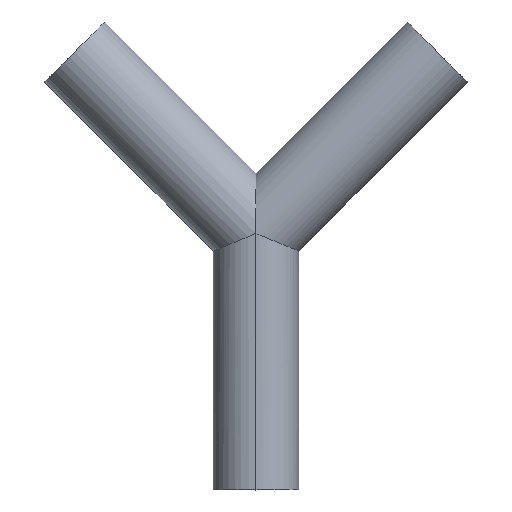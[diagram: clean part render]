
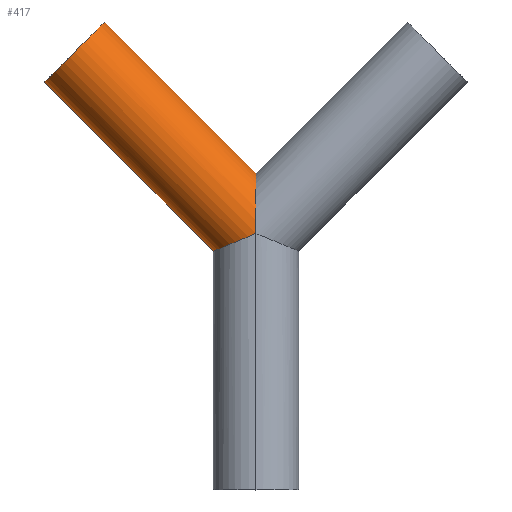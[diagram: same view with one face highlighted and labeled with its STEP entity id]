
A CAD part, top view. The second image highlights one B-rep face of the part: STEP entity #417.
In plain terms, the highlighted cylindrical face has radius 12.7 mm (diameter 25.4 mm), a partial arc.
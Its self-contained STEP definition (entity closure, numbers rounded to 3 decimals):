
#9 = EDGE_LOOP ( 'NONE', ( #325, #363, #56, #157, #224 ) ) ;
#27 = CARTESIAN_POINT ( 'NONE',  ( 16.42, -34.38, 0. ) ) ;
#30 = CARTESIAN_POINT ( 'NONE',  ( 0., 0., 12.7 ) ) ;
#40 = DIRECTION ( 'NONE',  ( -0.707, -0.707, 0. ) ) ;
#41 = CARTESIAN_POINT ( 'NONE',  ( -12.7, -5.261, 7.439 ) ) ;
#56 = ORIENTED_EDGE ( 'NONE', *, *, #198, .T. ) ;
#58 = DIRECTION ( 'NONE',  ( -0.707, 0.707, 0. ) ) ;
#68 = EDGE_CURVE ( 'NONE', #356, #333, #213, .T. ) ;
#83 = CIRCLE ( 'NONE', #441, 12.7 ) ;
#111 = CARTESIAN_POINT ( 'NONE',  ( 0., 0., 12.7 ) ) ;
#119 = CARTESIAN_POINT ( 'NONE',  ( -7.439, -3.082, 12.7 ) ) ;
#134 = DIRECTION ( 'NONE',  ( 0.707, -0.707, 0. ) ) ;
#143 = CARTESIAN_POINT ( 'NONE',  ( -12.7, -5.261, 0. ) ) ;
#151 = CARTESIAN_POINT ( 'NONE',  ( 0., 17.961, 7.439 ) ) ;
#155 = EDGE_CURVE ( 'NONE', #364, #418, #487, .T. ) ;
#157 = ORIENTED_EDGE ( 'NONE', *, *, #278, .F. ) ;
#158 = CARTESIAN_POINT ( 'NONE',  ( -12.7, -5.261, 0. ) ) ;
#180 = DIRECTION ( 'NONE',  ( -0.707, 0.707, 0. ) ) ;
#184 = LINE ( 'NONE', #27, #392 ) ;
#198 = EDGE_CURVE ( 'NONE', #418, #399, #83, .T. ) ;
#203 = CARTESIAN_POINT ( 'NONE',  ( 34.38, -16.42, 0. ) ) ;
#213 =( BOUNDED_CURVE ( )  B_SPLINE_CURVE ( 3, ( #389, #119, #41, #158 ),
 .UNSPECIFIED., .F., .F. ) 
 B_SPLINE_CURVE_WITH_KNOTS ( ( 4, 4 ),
 ( 1.571, 3.142 ),
 .UNSPECIFIED. ) 
 CURVE ( )  GEOMETRIC_REPRESENTATION_ITEM ( )  RATIONAL_B_SPLINE_CURVE ( ( 1., 0.805, 0.805, 1. ) ) 
 REPRESENTATION_ITEM ( '' )  );
#224 = ORIENTED_EDGE ( 'NONE', *, *, #68, .F. ) ;
#241 = VECTOR ( 'NONE', #58, 1000. ) ;
#242 = AXIS2_PLACEMENT_3D ( 'NONE', #264, #424, #40 ) ;
#264 = CARTESIAN_POINT ( 'NONE',  ( 25.4, -25.4, 0. ) ) ;
#278 = EDGE_CURVE ( 'NONE', #333, #399, #184, .T. ) ;
#306 =( BOUNDED_CURVE ( )  B_SPLINE_CURVE ( 3, ( #111, #381, #151, #414 ),
 .UNSPECIFIED., .F., .F. ) 
 B_SPLINE_CURVE_WITH_KNOTS ( ( 4, 4 ),
 ( 4.712, 6.283 ),
 .UNSPECIFIED. ) 
 CURVE ( )  GEOMETRIC_REPRESENTATION_ITEM ( )  RATIONAL_B_SPLINE_CURVE ( ( 1., 0.805, 0.805, 1. ) ) 
 REPRESENTATION_ITEM ( '' )  );
#310 = CARTESIAN_POINT ( 'NONE',  ( -44.901, 62.862, 0. ) ) ;
#320 = CYLINDRICAL_SURFACE ( 'NONE', #242, 12.7 ) ;
#325 = ORIENTED_EDGE ( 'NONE', *, *, #369, .T. ) ;
#329 = FACE_OUTER_BOUND ( 'NONE', #9, .T. ) ;
#333 = VERTEX_POINT ( 'NONE', #143 ) ;
#337 = CARTESIAN_POINT ( 'NONE',  ( 0., 17.961, 0. ) ) ;
#341 = CARTESIAN_POINT ( 'NONE',  ( -62.862, 44.901, 0. ) ) ;
#356 = VERTEX_POINT ( 'NONE', #30 ) ;
#363 = ORIENTED_EDGE ( 'NONE', *, *, #155, .T. ) ;
#364 = VERTEX_POINT ( 'NONE', #337 ) ;
#365 = CARTESIAN_POINT ( 'NONE',  ( -53.882, 53.882, 0. ) ) ;
#369 = EDGE_CURVE ( 'NONE', #356, #364, #306, .T. ) ;
#381 = CARTESIAN_POINT ( 'NONE',  ( 0., 10.521, 12.7 ) ) ;
#389 = CARTESIAN_POINT ( 'NONE',  ( 0., 0., 12.7 ) ) ;
#392 = VECTOR ( 'NONE', #180, 1000. ) ;
#399 = VERTEX_POINT ( 'NONE', #341 ) ;
#402 = DIRECTION ( 'NONE',  ( -0.707, -0.707, 0. ) ) ;
#414 = CARTESIAN_POINT ( 'NONE',  ( 0., 17.961, 0. ) ) ;
#417 = ADVANCED_FACE ( 'NONE', ( #329 ), #320, .T. ) ;
#418 = VERTEX_POINT ( 'NONE', #310 ) ;
#424 = DIRECTION ( 'NONE',  ( -0.707, 0.707, 0. ) ) ;
#441 = AXIS2_PLACEMENT_3D ( 'NONE', #365, #134, #402 ) ;
#487 = LINE ( 'NONE', #203, #241 ) ;
